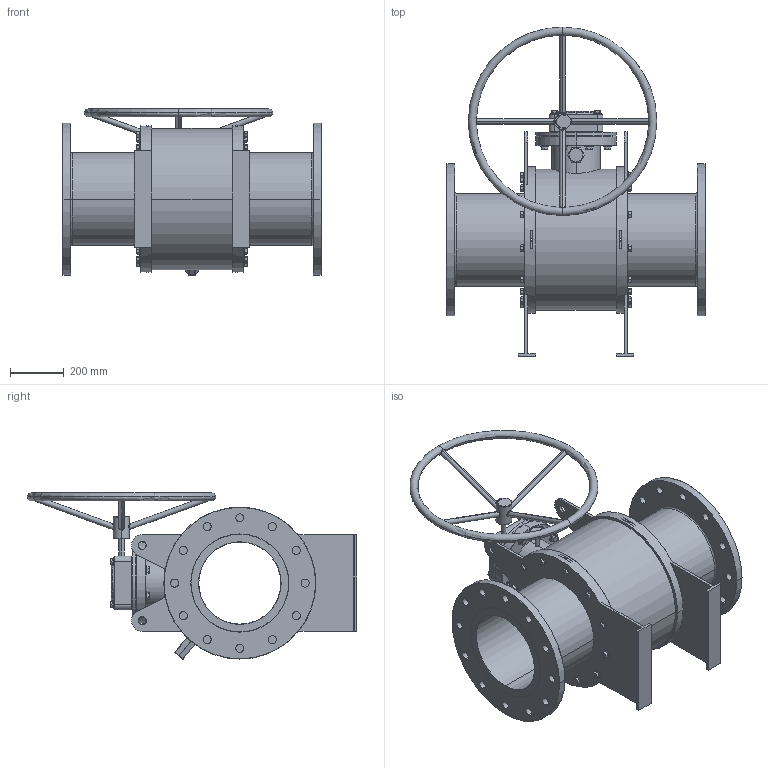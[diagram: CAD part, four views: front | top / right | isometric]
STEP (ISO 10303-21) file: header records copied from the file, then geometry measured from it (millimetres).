
FILE_DESCRIPTION (( 'STEP AP203' ), '1' );
FILE_NAME ('GB2_ANSI_900_12IN_HD.STEP', '2025-10-09T15:07:50', ( '' ), ( '' ), 'SwSTEP 2.0', 'SolidWorks 2025', '' );
FILE_SCHEMA (( 'CONFIG_CONTROL_DESIGN' ));
Length unit declared in the file: millimetre
Products named in the file (3): hex flange screw_am_B18.2.3.4M - Hex flange screw, M16 x 2.0 x 25 --25N; GB2_ANSI_2500_1500_ANSI_900_12IN; GB2_ANSI_900_12IN_HD
Assembly tree (37 placements, depth 2):
  GB2_ANSI_900_12IN_HD
    GB2_ANSI_2500_1500_ANSI_900_12IN
    hex flange screw_am_B18.2.3.4M - Hex flange screw, M16 x 2.0 x 25 --25N  x36
Bounding box: 965 x 1224.5 x 617.48 mm (x, y, z)
Volume: 90486581.2 mm3; surface area: 4639540.1 mm2
Topology: 38 solids, 38 shells, 1605 faces, 3640 edges, 2196 vertices
Faces by surface type: plane 528, cone 392, cylinder 297, bspline 286, torus 96, sphere 6
Entity records: 27343 total; most frequent: CARTESIAN_POINT 11958, ORIENTED_EDGE 2932, DIRECTION 2904, EDGE_CURVE 1466, AXIS2_PLACEMENT_3D 1110, VERTEX_POINT 934, EDGE_LOOP 736, LINE 684
